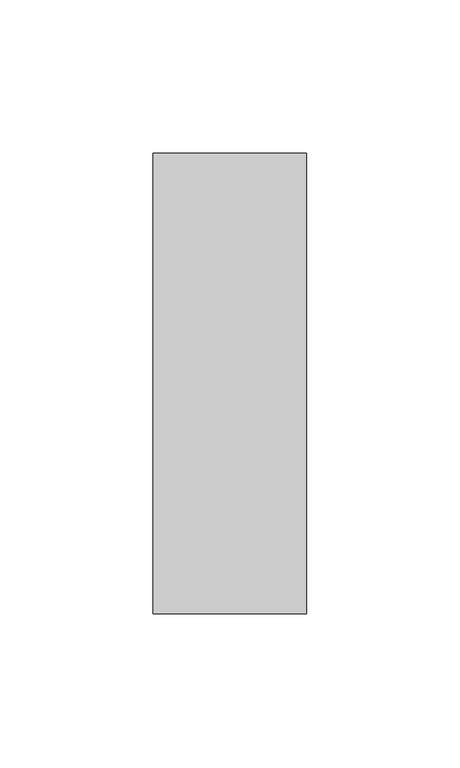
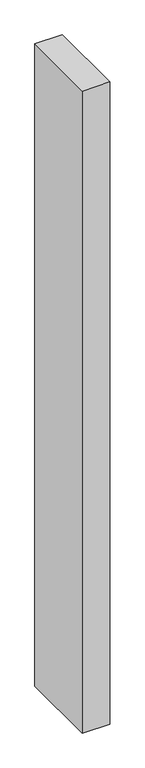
"""IFC4 building model written with IfcOpenShell, lengths in millimetres: member geometry, Прямоугольный импост : 50 x 150 мм."""

from ifc_helpers import new_model, si_unit, frame, origin, place, context, project, spatial, polyline, outline, extrude, source, transform, mapped, element, save


def member_4691a2c8(model_context):
    return source(origin(), model_context, "Body", "SweptSolid", [
        extrude(outline(polyline([(25.0, 75.0), (25.0, -75.0), (-25.0, -75.0), (-25.0, 75.0), (25.0, 75.0)])), frame((0.0, 0.0, -1241.1478335), z_axis=(0.0, 0.0, 1.0), x_axis=(1.0, 0.0, 0.0)), (0.0, 0.0, 1.0), 1241.1478335),
    ])


if __name__ == "__main__":
    model = new_model("IFC4")
    model_context = context("Model", 3, world=origin())
    ifc_project = project(units=[si_unit("LENGTHUNIT", "METRE", prefix="MILLI")], contexts=[model_context])
    site = spatial("IfcSite", under=ifc_project)
    building = spatial("IfcBuilding", under=site)
    placement = place(None, origin())
    member_shape = member_4691a2c8(model_context)
    element("IfcMember", 1, ObjectType="Прямоугольный импост : 50 x 150 мм", at=placement, inside=building, context=model_context, shape_type="MappedRepresentation", body=[
        mapped(member_shape, transform((0.0, 0.0, 0.0), x_axis=(1.0, 0.0, 0.0), y_axis=(0.0, 1.0, 0.0), z_axis=(0.0, 0.0, 1.0))),
    ])
    save(model, "model.ifc")
